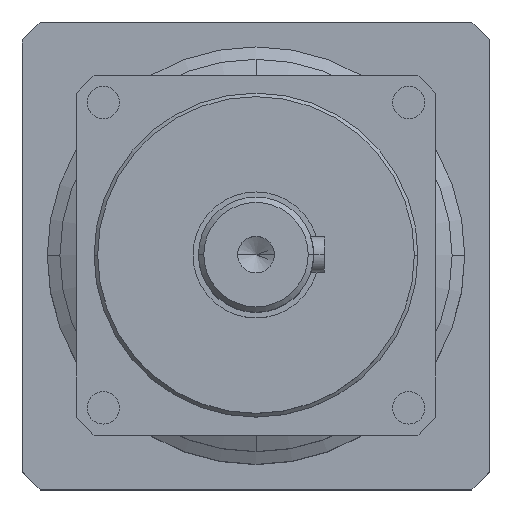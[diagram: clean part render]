
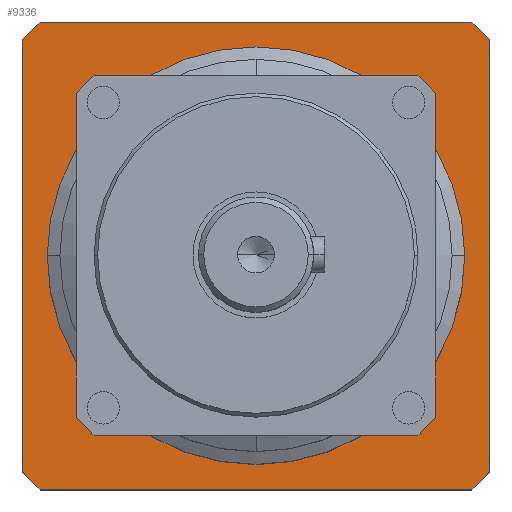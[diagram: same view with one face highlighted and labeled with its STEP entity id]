
A CAD part, top view. The second image highlights one B-rep face of the part: STEP entity #9336.
In plain terms, the highlighted planar face has unit normal (0, 0, 1).
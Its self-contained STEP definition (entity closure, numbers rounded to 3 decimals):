
#296 = VERTEX_POINT ( 'NONE', #3272 ) ;
#1397 = CARTESIAN_POINT ( 'NONE',  ( 60., -65., -137. ) ) ;
#1439 = DIRECTION ( 'NONE',  ( 0.707, -0.707, 0. ) ) ;
#1495 = CARTESIAN_POINT ( 'NONE',  ( -60., 65., -137. ) ) ;
#1796 = LINE ( 'NONE', #19999, #15117 ) ;
#1873 = PLANE ( 'NONE',  #26348 ) ;
#2622 = EDGE_CURVE ( 'NONE', #10705, #296, #1796, .T. ) ;
#3272 = CARTESIAN_POINT ( 'NONE',  ( -65., 60., -137. ) ) ;
#3616 = DIRECTION ( 'NONE',  ( 0., 0., 1. ) ) ;
#4018 = ORIENTED_EDGE ( 'NONE', *, *, #12837, .T. ) ;
#4029 = ORIENTED_EDGE ( 'NONE', *, *, #27651, .F. ) ;
#4208 = VECTOR ( 'NONE', #1439, 1000. ) ;
#4578 = ORIENTED_EDGE ( 'NONE', *, *, #28128, .T. ) ;
#4670 = VECTOR ( 'NONE', #27219, 1000. ) ;
#4705 = VERTEX_POINT ( 'NONE', #19014 ) ;
#4741 = CARTESIAN_POINT ( 'NONE',  ( 60., -65., -137. ) ) ;
#5133 = DIRECTION ( 'NONE',  ( -0.707, -0.707, 0. ) ) ;
#5391 = CARTESIAN_POINT ( 'NONE',  ( -65., -60., -137. ) ) ;
#6254 = VECTOR ( 'NONE', #15427, 1000. ) ;
#6660 = DIRECTION ( 'NONE',  ( 0., 0., 1. ) ) ;
#6947 = DIRECTION ( 'NONE',  ( -1., 0., 0. ) ) ;
#7412 = CARTESIAN_POINT ( 'NONE',  ( -58., 0., -137. ) ) ;
#7553 = LINE ( 'NONE', #13194, #20782 ) ;
#7742 = CARTESIAN_POINT ( 'NONE',  ( 65., -60., -137. ) ) ;
#7895 = EDGE_CURVE ( 'NONE', #296, #26095, #19436, .T. ) ;
#8675 = EDGE_CURVE ( 'NONE', #26114, #17879, #21272, .T. ) ;
#9336 = ADVANCED_FACE ( 'NONE', ( #25202, #31812 ), #1873, .F. ) ;
#9647 = VECTOR ( 'NONE', #30417, 1000. ) ;
#9650 = VERTEX_POINT ( 'NONE', #20589 ) ;
#10316 = ORIENTED_EDGE ( 'NONE', *, *, #20846, .T. ) ;
#10705 = VERTEX_POINT ( 'NONE', #1495 ) ;
#10788 = VERTEX_POINT ( 'NONE', #24212 ) ;
#11332 = LINE ( 'NONE', #4741, #4670 ) ;
#11457 = VECTOR ( 'NONE', #12980, 1000. ) ;
#11854 = CARTESIAN_POINT ( 'NONE',  ( 0., 0., -137. ) ) ;
#11952 = ORIENTED_EDGE ( 'NONE', *, *, #15123, .T. ) ;
#12837 = EDGE_CURVE ( 'NONE', #4705, #9650, #30531, .T. ) ;
#12931 = CARTESIAN_POINT ( 'NONE',  ( -65., 65., -137. ) ) ;
#12980 = DIRECTION ( 'NONE',  ( -0.707, 0.707, 0. ) ) ;
#13194 = CARTESIAN_POINT ( 'NONE',  ( 65., 65., -137. ) ) ;
#13655 = ORIENTED_EDGE ( 'NONE', *, *, #8675, .F. ) ;
#14784 = EDGE_LOOP ( 'NONE', ( #13655, #4029 ) ) ;
#15117 = VECTOR ( 'NONE', #5133, 1000. ) ;
#15123 = EDGE_CURVE ( 'NONE', #10788, #30479, #21971, .T. ) ;
#15427 = DIRECTION ( 'NONE',  ( 0., -1., 0. ) ) ;
#16484 = EDGE_CURVE ( 'NONE', #26095, #10788, #24888, .T. ) ;
#16759 = ORIENTED_EDGE ( 'NONE', *, *, #16484, .T. ) ;
#17879 = VERTEX_POINT ( 'NONE', #7412 ) ;
#17925 = ORIENTED_EDGE ( 'NONE', *, *, #7895, .T. ) ;
#18529 = CARTESIAN_POINT ( 'NONE',  ( 0., 0., -137. ) ) ;
#18754 = AXIS2_PLACEMENT_3D ( 'NONE', #21539, #6660, #24074 ) ;
#19014 = CARTESIAN_POINT ( 'NONE',  ( 65., 60., -137. ) ) ;
#19436 = LINE ( 'NONE', #12931, #6254 ) ;
#19605 = CARTESIAN_POINT ( 'NONE',  ( 65., -65., -137. ) ) ;
#19999 = CARTESIAN_POINT ( 'NONE',  ( -60., 65., -137. ) ) ;
#20589 = CARTESIAN_POINT ( 'NONE',  ( 60., 65., -137. ) ) ;
#20782 = VECTOR ( 'NONE', #30598, 1000. ) ;
#20846 = EDGE_CURVE ( 'NONE', #30479, #28044, #11332, .T. ) ;
#21034 = DIRECTION ( 'NONE',  ( 1., 0., 0. ) ) ;
#21272 = CIRCLE ( 'NONE', #18754, 58. ) ;
#21539 = CARTESIAN_POINT ( 'NONE',  ( 0., 0., -137. ) ) ;
#21824 = DIRECTION ( 'NONE',  ( 0., 0., -1. ) ) ;
#21971 = LINE ( 'NONE', #19605, #28655 ) ;
#22773 = CARTESIAN_POINT ( 'NONE',  ( 58., 0., -137. ) ) ;
#23239 = AXIS2_PLACEMENT_3D ( 'NONE', #18529, #3616, #21034 ) ;
#24074 = DIRECTION ( 'NONE',  ( 1., 0., 0. ) ) ;
#24212 = CARTESIAN_POINT ( 'NONE',  ( -60., -65., -137. ) ) ;
#24339 = CIRCLE ( 'NONE', #23239, 58. ) ;
#24664 = DIRECTION ( 'NONE',  ( 1., 0., 0. ) ) ;
#24888 = LINE ( 'NONE', #26370, #4208 ) ;
#25202 = FACE_BOUND ( 'NONE', #14784, .T. ) ;
#26095 = VERTEX_POINT ( 'NONE', #5391 ) ;
#26114 = VERTEX_POINT ( 'NONE', #22773 ) ;
#26348 = AXIS2_PLACEMENT_3D ( 'NONE', #11854, #21824, #6947 ) ;
#26370 = CARTESIAN_POINT ( 'NONE',  ( -65., -60., -137. ) ) ;
#26475 = ORIENTED_EDGE ( 'NONE', *, *, #31588, .T. ) ;
#27219 = DIRECTION ( 'NONE',  ( 0.707, 0.707, 0. ) ) ;
#27651 = EDGE_CURVE ( 'NONE', #17879, #26114, #24339, .T. ) ;
#27917 = CARTESIAN_POINT ( 'NONE',  ( 65., 60., -137. ) ) ;
#27952 = CARTESIAN_POINT ( 'NONE',  ( 65., 65., -137. ) ) ;
#28044 = VERTEX_POINT ( 'NONE', #7742 ) ;
#28128 = EDGE_CURVE ( 'NONE', #9650, #10705, #7553, .T. ) ;
#28382 = EDGE_LOOP ( 'NONE', ( #10316, #26475, #4018, #4578, #31001, #17925, #16759, #11952 ) ) ;
#28655 = VECTOR ( 'NONE', #24664, 1000. ) ;
#29534 = LINE ( 'NONE', #27952, #9647 ) ;
#30417 = DIRECTION ( 'NONE',  ( 0., 1., 0. ) ) ;
#30479 = VERTEX_POINT ( 'NONE', #1397 ) ;
#30531 = LINE ( 'NONE', #27917, #11457 ) ;
#30598 = DIRECTION ( 'NONE',  ( -1., 0., 0. ) ) ;
#31001 = ORIENTED_EDGE ( 'NONE', *, *, #2622, .T. ) ;
#31588 = EDGE_CURVE ( 'NONE', #28044, #4705, #29534, .T. ) ;
#31812 = FACE_OUTER_BOUND ( 'NONE', #28382, .T. ) ;
